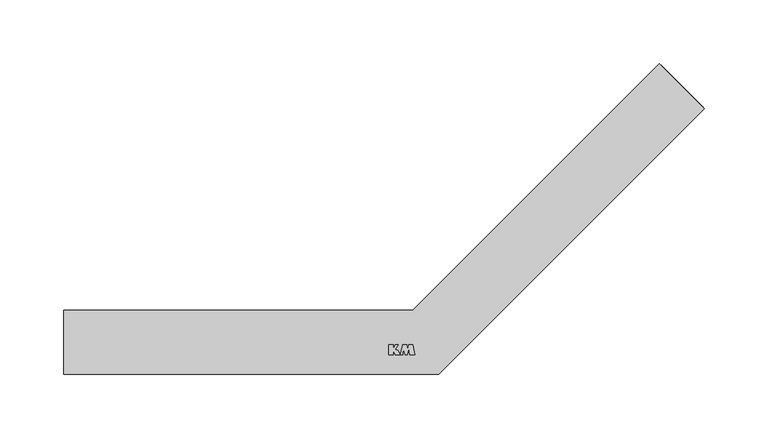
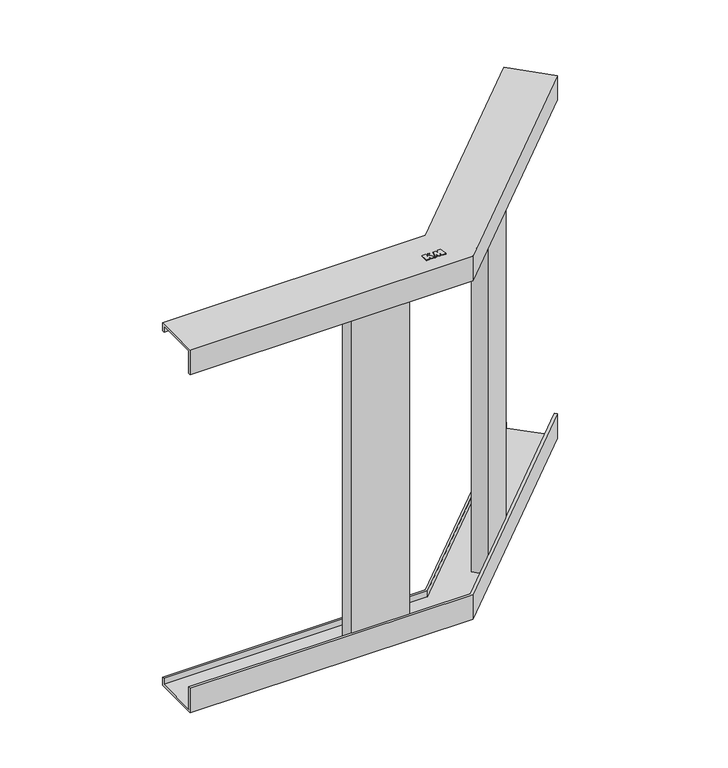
"""IFC4 building model written with IfcOpenShell, lengths in millimetres: cable carrier fitting geometry, КМ Профиль L Угол вертикальный внутренний «Быстрый монтаж» : Угол вертикальный внутренний «Быстрый монтаж»."""

from ifc_helpers import new_model, si_unit, frame, origin, place, context, project, spatial, polyline, outline, extrude, faceted_brep, source, transform, mapped, element, save


def cable_carrier_fitting_9e5f0a06(model_context):
    return source(origin(), model_context, "Body", "SolidModel", [
        extrude(outline(polyline([(-29.2388781, -1.986157), (-25.7316192, -1.986157), (-25.7316192, -5.564509), (-23.8289757, -1.986157), (-21.703011, -1.986157), (-24.1694955, -5.5086619), (-21.9277444, -6.194034), (-20.0604353, -9.737421), (-23.9588467, -9.737421), (-25.6630512, -6.5720802), (-25.6630512, -9.737421), (-29.2388781, -9.737421), (-29.2388781, -1.986157)])), frame((0.0, 0.0, 200.0), z_axis=(0.0, 0.0, 1.0), x_axis=(1.0, 0.0, 0.0)), (0.0, 0.0, 1.0), 0.8),
        extrude(outline(polyline([(-17.9962759, -9.737421), (-19.8943395, -9.737421), (-18.0740589, -1.9647569), (-15.0433304, -1.9647569), (-14.2768297, -5.0390232), (-13.2555223, -1.9623682), (-10.0615674, -1.9623682), (-8.8700699, -9.7429915), (-12.7725105, -9.7429915), (-13.2500032, -5.0541919), (-14.7300717, -9.7434681), (-16.2045824, -9.7434681), (-17.6126012, -5.0696135), (-17.9962759, -9.737421)])), frame((0.0, 0.0, 200.0), z_axis=(0.0, 0.0, 1.0), x_axis=(1.0, 0.0, 0.0)), (0.0, 0.0, 1.0), 0.8),
        extrude(outline(polyline([(-54.1446609, -6.5), (-54.1446609, -22.5), (-115.1446609, -22.5), (-115.1446609, -6.5), (-54.1446609, -6.5)])), frame((0.0, 0.0, -195.0), z_axis=(0.0, 0.0, 1.0), x_axis=(1.0, 0.0, 0.0)), (0.0, 0.0, 1.0), 390.0),
        extrude(outline(polyline([(86.0157646, 76.8233765), (97.3294731, 65.509668), (54.1959595, 22.3761543), (42.882251, 33.6898628), (86.0157646, 76.8233765)])), frame((0.0, 0.0, -195.0), z_axis=(0.0, 0.0, 1.0), x_axis=(1.0, 0.0, 0.0)), (0.0, 0.0, 1.0), 390.0),
        faceted_brep([(-284.6446609, 25.0, 191.0), (-284.6446609, 22.5, 191.0), (-284.6446609, 22.5, 197.5), (-284.6446609, -22.5, 197.5), (-284.6446609, -22.5, 173.0), (-284.6446609, -25.0, 173.0), (-284.6446609, -25.0, 200.0), (-284.6446609, 25.0, 200.0), (-10.3553391, 25.0, 191.0), (183.5965005, 218.9518395, 191.0), (185.3642674, 217.1840726, 191.0), (-9.3198052, 22.5, 191.0), (-9.3198052, 22.5, 197.5), (185.3642674, 217.1840726, 197.5), (217.1840726, 185.3642674, 197.5), (9.3198052, -22.5, 197.5), (9.3198052, -22.5, 173.0), (217.1840726, 185.3642674, 173.0), (218.9518395, 183.5965005, 173.0), (10.3553391, -25.0, 173.0), (10.3553391, -25.0, 200.0), (218.9518395, 183.5965005, 200.0), (183.5965005, 218.9518395, 200.0), (-10.3553391, 25.0, 200.0)], [[[0, 1, 2, 3, 4, 5, 6, 7]], [[1, 0, 8, 9, 10, 11]], [[2, 1, 11, 12]], [[3, 2, 12, 13, 14, 15]], [[4, 3, 15, 16]], [[5, 4, 16, 17, 18, 19]], [[6, 5, 19, 20]], [[7, 6, 20, 21, 22, 23]], [[0, 7, 23, 8]], [[9, 22, 21, 18, 17, 14, 13, 10]], [[12, 11, 10, 13]], [[16, 15, 14, 17]], [[20, 19, 18, 21]], [[8, 23, 22, 9]]]),
        faceted_brep([(-284.6446609, 25.0, -191.0), (-284.6446609, 25.0, -200.0), (-284.6446609, -25.0, -200.0), (-284.6446609, -25.0, -173.0), (-284.6446609, -22.5, -173.0), (-284.6446609, -22.5, -197.5), (-284.6446609, 22.5, -197.5), (-284.6446609, 22.5, -191.0), (-10.3553391, 25.0, -191.0), (-10.3553391, 25.0, -200.0), (183.5965005, 218.9518395, -200.0), (218.9518395, 183.5965005, -200.0), (10.3553391, -25.0, -200.0), (10.3553391, -25.0, -173.0), (218.9518395, 183.5965005, -173.0), (217.1840726, 185.3642674, -173.0), (9.3198052, -22.5, -173.0), (9.3198052, -22.5, -197.5), (217.1840726, 185.3642674, -197.5), (185.3642674, 217.1840726, -197.5), (-9.3198052, 22.5, -197.5), (-9.3198052, 22.5, -191.0), (185.3642674, 217.1840726, -191.0), (183.5965005, 218.9518395, -191.0)], [[[0, 1, 2, 3, 4, 5, 6, 7]], [[1, 0, 8, 9]], [[2, 1, 9, 10, 11, 12]], [[3, 2, 12, 13]], [[4, 3, 13, 14, 15, 16]], [[5, 4, 16, 17]], [[6, 5, 17, 18, 19, 20]], [[7, 6, 20, 21]], [[0, 7, 21, 22, 23, 8]], [[23, 22, 19, 18, 15, 14, 11, 10]], [[9, 8, 23, 10]], [[13, 12, 11, 14]], [[17, 16, 15, 18]], [[21, 20, 19, 22]]]),
    ])


if __name__ == "__main__":
    model = new_model("IFC4")
    model_context = context("Model", 3, world=origin())
    ifc_project = project(units=[si_unit("LENGTHUNIT", "METRE", prefix="MILLI")], contexts=[model_context])
    site = spatial("IfcSite", under=ifc_project)
    building = spatial("IfcBuilding", under=site)
    placement = place(None, origin())
    cable_carrier_fitting_shape = cable_carrier_fitting_9e5f0a06(model_context)
    element("IfcCableCarrierFitting", 1, ObjectType="КМ Профиль L Угол вертикальный внутренний «Быстрый монтаж» : Угол вертикальный внутренний «Быстрый монтаж»", at=placement, inside=building, context=model_context, shape_type="MappedRepresentation", body=[
        mapped(cable_carrier_fitting_shape, transform((0.0, 0.0, 0.0), x_axis=(1.0, 0.0, 0.0), y_axis=(0.0, 1.0, 0.0), z_axis=(0.0, 0.0, 1.0))),
    ])
    save(model, "model.ifc")
